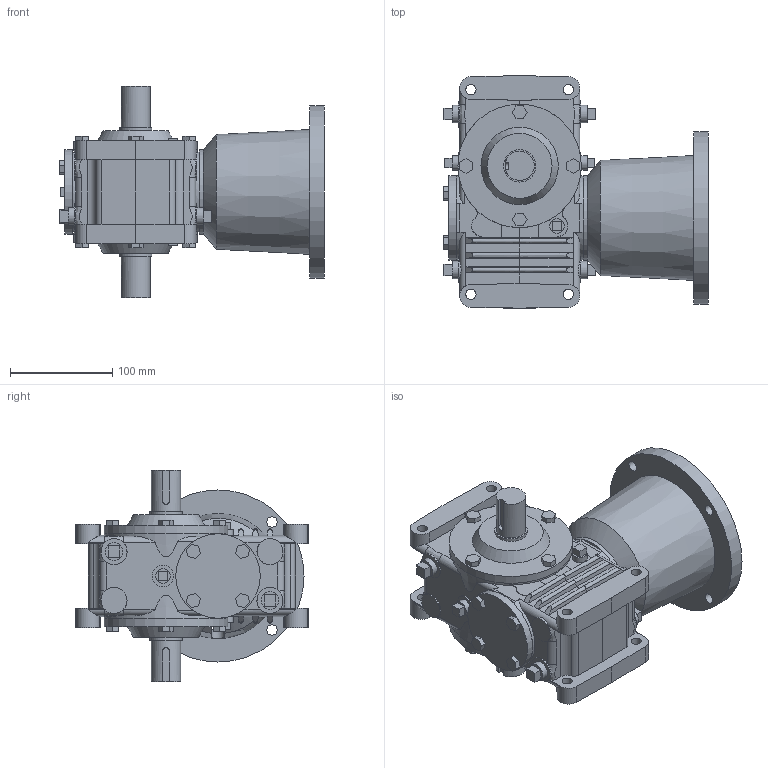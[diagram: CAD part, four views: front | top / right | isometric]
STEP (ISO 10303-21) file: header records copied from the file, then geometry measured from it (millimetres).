
FILE_DESCRIPTION(/* description */ ('Unknown'),/* implementation_level */ '2;1');
FILE_NAME(/* name */ 'HV-20-7C-BNG010',/* time_stamp */ '2024-11-20T11:19:40-05:00',/* author */ ('Unknown'),/* organization */ ('Unknown'),/* preprocessor_version */ 'ST-DEVELOPER v19.4',/* originating_system */ 'Solid Edge',/* authorisation */ 'Unknown');
FILE_SCHEMA (('AUTOMOTIVE_DESIGN {1 0 10303 214 3 1 1}'));
Length unit declared in the file: millimetre
Products named in the file (5): HV-20-7C-BNG010; 20-1A-CP; 20-OUTS; 20-MTR45-56C; 20-WCAP
Assembly tree (5 placements, depth 2):
  HV-20-7C-BNG010
    20-1A-CP
    20-OUTS  x2
    20-MTR45-56C
    20-WCAP
Bounding box: 258.75 x 227.15 x 206.4 mm (x, y, z)
Volume: 2897926.6 mm3; surface area: 363737.9 mm2
Topology: 6 solids, 6 shells, 495 faces, 1221 edges, 805 vertices
Faces by surface type: plane 338, cylinder 125, bspline 24, cone 8
Full cylindrical faces by diameter (mm): 0.254 x4, 0.635 x3, 1.27 x2, 7.938 x8, 10.033 x8, 10.319 x4, 11.906 x4, 14.287 x4, 17.45 x1, 17.462 x4, 17.475 x1, 18.952 x1, 20.828 x2, 25.4 x8, 28.562 x2, 31.598 x2, 44.45 x1, 50.8 x1, 52.07 x1, 52.324 x1, 82.55 x2, 114.338 x1, 120.65 x2, 168.275 x1
Entity records: 14841 total; most frequent: CARTESIAN_POINT 3425, DIRECTION 2073, ORIENTED_EDGE 2018, EDGE_CURVE 1009, AXIS2_PLACEMENT_3D 712, VERTEX_POINT 696, LINE 649, VECTOR 649
